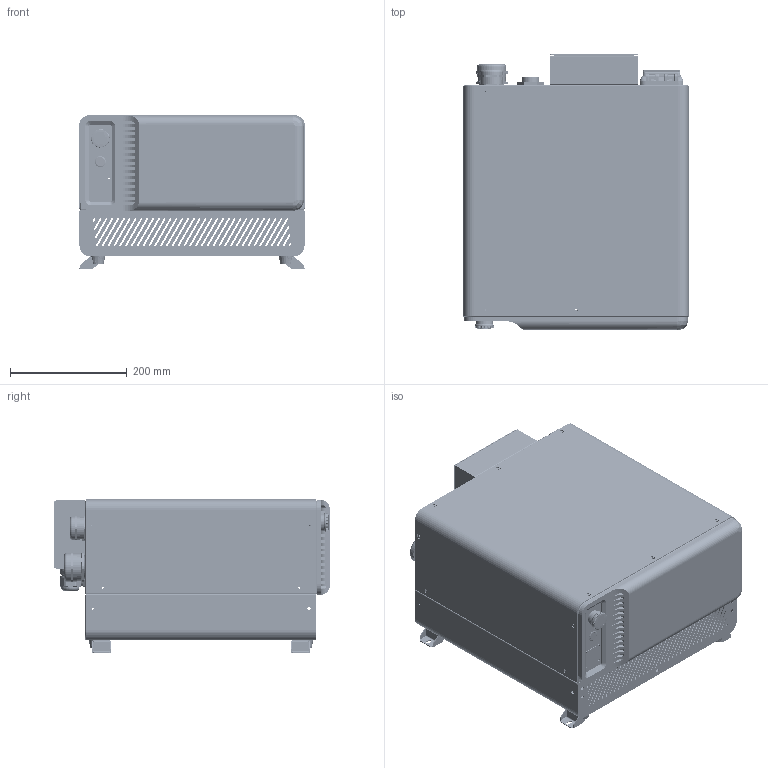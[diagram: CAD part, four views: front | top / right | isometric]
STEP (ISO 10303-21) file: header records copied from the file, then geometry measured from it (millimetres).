
FILE_DESCRIPTION(/* description */ (''),/* implementation_level */ '2;1');
FILE_NAME(/* name */ '21143.stp',/* time_stamp */ '2025-06-16T09:07:34+08:00',/* author */ (''),/* organization */ (''),/* preprocessor_version */ 'ST-DEVELOPER v16.7',/* originating_system */ 'SIEMENS PLM Software NX 12.0',/* authorisation */ '');
FILE_SCHEMA (('AUTOMOTIVE_DESIGN { 1 0 10303 214 3 1 1 1 }'));
Products named in the file (1): 1234256
Bounding box: 388.34 x 472 x 263.4 mm (x, y, z)
Volume: 1635090 mm3; surface area: 2153085.5 mm2
Topology: 140 solids, 144 shells, 21587 faces, 61704 edges, 40695 vertices
Faces by surface type: plane 13826, cylinder 6780, cone 419, bspline 245, torus 206, sphere 109, extrusion 2
Full cylindrical faces by diameter (mm): 2.459 x4, 2.5 x12, 3.242 x67, 3.5 x9, 3.6 x8, 4 x30, 4.2 x4, 4.475 x2, 5 x77, 5.5 x25, 5.816 x8, 5.9 x2, 6 x23, 6.3 x4, 6.32 x6, 7.12 x6, 7.194 x1, 7.9 x61, 8 x3, 9 x2, 10 x2, 12.7 x3, 14.8 x1, 15 x2, 16.5 x2, 16.8 x1, 20.6 x1, 21 x1, 23 x1, 24.7 x1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
Entity records: 742760 total; most frequent: CARTESIAN_POINT 169264, ORIENTED_EDGE 122058, DIRECTION 115280, EDGE_CURVE 61029, VECTOR 44184, LINE 44182, VERTEX_POINT 40566, AXIS2_PLACEMENT_3D 35548
